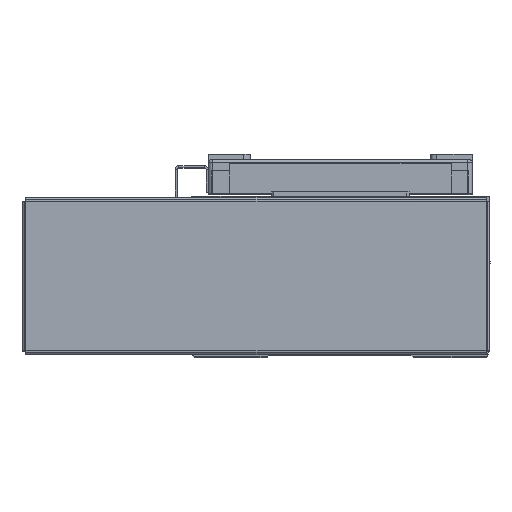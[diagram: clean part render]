
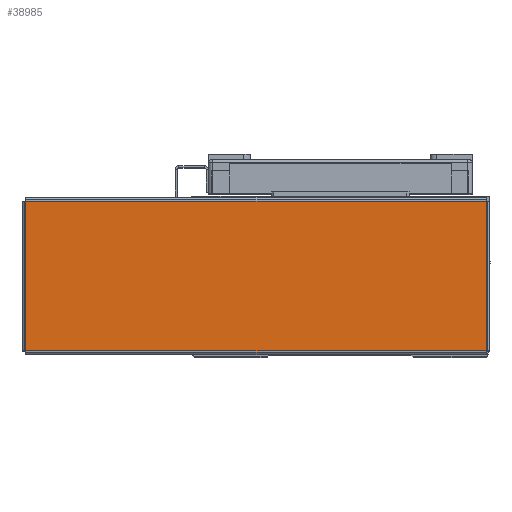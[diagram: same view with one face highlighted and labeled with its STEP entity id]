
A CAD part, top view. The second image highlights one B-rep face of the part: STEP entity #38985.
In plain terms, the highlighted planar face has unit normal (0, 0, 1) as drawn and (0, -1, 0) by its records, which use the part's own axes.
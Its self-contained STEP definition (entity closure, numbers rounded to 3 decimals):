
#9504 = CARTESIAN_POINT ( 'NONE',  ( 103.763, -1., -33.793 ) ) ;
#9517 = DIRECTION ( 'NONE',  ( -1., 0., 0. ) ) ;
#9518 = DIRECTION ( 'NONE',  ( 0., 0., 1. ) ) ;
#9524 = CARTESIAN_POINT ( 'NONE',  ( 103.793, -1., 33.763 ) ) ;
#9562 = CARTESIAN_POINT ( 'NONE',  ( -103.793, -1., -33.763 ) ) ;
#9587 = DIRECTION ( 'NONE',  ( 1., 0., 0. ) ) ;
#11565 = EDGE_LOOP ( 'NONE', ( #29314, #29421, #29321, #29319 ) ) ;
#14646 = VERTEX_POINT ( 'NONE', #24082 ) ;
#14647 = VERTEX_POINT ( 'NONE', #24059 ) ;
#14729 = VERTEX_POINT ( 'NONE', #24261 ) ;
#14763 = VERTEX_POINT ( 'NONE', #24280 ) ;
#17134 = VECTOR ( 'NONE', #20337, 1000. ) ;
#17136 = LINE ( 'NONE', #20370, #17134 ) ;
#20337 = DIRECTION ( 'NONE',  ( 0., 0., -1. ) ) ;
#20370 = CARTESIAN_POINT ( 'NONE',  ( -103.763, -1., 33.793 ) ) ;
#24059 = CARTESIAN_POINT ( 'NONE',  ( -103.763, -1., 33.763 ) ) ;
#24082 = CARTESIAN_POINT ( 'NONE',  ( -103.763, -1., -33.763 ) ) ;
#24261 = CARTESIAN_POINT ( 'NONE',  ( 103.763, -1., -33.763 ) ) ;
#24280 = CARTESIAN_POINT ( 'NONE',  ( 103.763, -1., 33.763 ) ) ;
#29314 = ORIENTED_EDGE ( 'NONE', *, *, #53486, .T. ) ;
#29319 = ORIENTED_EDGE ( 'NONE', *, *, #53490, .T. ) ;
#29321 = ORIENTED_EDGE ( 'NONE', *, *, #53499, .T. ) ;
#29421 = ORIENTED_EDGE ( 'NONE', *, *, #54967, .T. ) ;
#31221 = AXIS2_PLACEMENT_3D ( 'NONE', #41607, #41612, #41653 ) ;
#33974 = FACE_OUTER_BOUND ( 'NONE', #11565, .T. ) ;
#34995 = LINE ( 'NONE', #9524, #35013 ) ;
#34998 = VECTOR ( 'NONE', #9518, 1000. ) ;
#35002 = LINE ( 'NONE', #9504, #34998 ) ;
#35013 = VECTOR ( 'NONE', #9517, 1000. ) ;
#35040 = VECTOR ( 'NONE', #9587, 1000. ) ;
#35068 = LINE ( 'NONE', #9562, #35040 ) ;
#38985 = ADVANCED_FACE ( 'NONE', ( #33974 ), #41605, .F. ) ;
#41605 = PLANE ( 'NONE',  #31221 ) ;
#41607 = CARTESIAN_POINT ( 'NONE',  ( 0., -1., 0. ) ) ;
#41612 = DIRECTION ( 'NONE',  ( 0., 1., 0. ) ) ;
#41653 = DIRECTION ( 'NONE',  ( 0., 0., 1. ) ) ;
#53486 = EDGE_CURVE ( 'NONE', #14763, #14647, #34995, .T. ) ;
#53490 = EDGE_CURVE ( 'NONE', #14729, #14763, #35002, .T. ) ;
#53499 = EDGE_CURVE ( 'NONE', #14646, #14729, #35068, .T. ) ;
#54967 = EDGE_CURVE ( 'NONE', #14647, #14646, #17136, .T. ) ;
